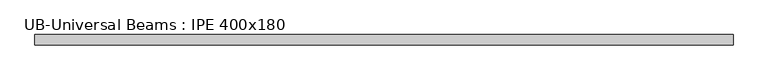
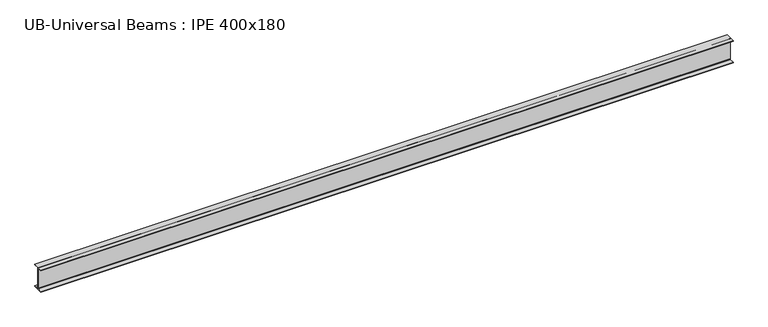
"""IFC4 building model written with IfcOpenShell, lengths in millimetres: beam geometry, UB-Universal Beams : IPE 400x180."""

from ifc_helpers import new_model, si_unit, point, frame, frame_2d, origin, place, context, project, spatial, polyline, circle_curve, trimmed, segment, composite_curve, outline, extrude, source, transform, mapped, element, save


def ub_universal_beams_ipe_400x180_9b888a99(model_context):
    return source(origin(), model_context, "Body", "SweptSolid", [
        extrude(outline(composite_curve([segment(polyline([(-90.0, -189.8), (-11.9, -189.8)]), True, "CONTINUOUS"), segment(trimmed(circle_curve(frame_2d((-11.9, -180.9)), 8.9), [point((-11.9, -189.8))], [point((-3.0, -180.9))], True, "CARTESIAN"), True, "CONTINUOUS"), segment(polyline([(-3.0, -180.9), (-3.0, 180.9)]), True, "CONTINUOUS"), segment(trimmed(circle_curve(frame_2d((-11.9, 180.9)), 8.9), [point((-3.0, 180.9))], [point((-11.9, 189.8))], True, "CARTESIAN"), True, "CONTINUOUS"), segment(polyline([(-11.9, 189.8), (-90.0, 189.8), (-90.0, 200.0), (90.0, 200.0), (90.0, 189.8), (11.9, 189.8)]), True, "CONTINUOUS"), segment(trimmed(circle_curve(frame_2d((11.9, 180.9)), 8.9), [point((11.9, 189.8))], [point((3.0, 180.9))], True, "CARTESIAN"), True, "CONTINUOUS"), segment(polyline([(3.0, 180.9), (3.0, -180.9)]), True, "CONTINUOUS"), segment(trimmed(circle_curve(frame_2d((11.9, -180.9)), 8.9), [point((3.0, -180.9))], [point((11.9, -189.8))], True, "CARTESIAN"), True, "CONTINUOUS"), segment(polyline([(11.9, -189.8), (90.0, -189.8), (90.0, -200.0), (-90.0, -200.0), (-90.0, -189.8)]), True, "CONTINUOUS")], self_intersect=False)), frame((-5832.5, 0.0, 0.0), z_axis=(1.0, 0.0, 0.0), x_axis=(0.0, 1.0, 0.0)), (0.0, 0.0, 1.0), 11920.1),
    ])


if __name__ == "__main__":
    model = new_model("IFC4")
    model_context = context("Model", 3, world=origin())
    ifc_project = project(units=[si_unit("LENGTHUNIT", "METRE", prefix="MILLI")], contexts=[model_context])
    site = spatial("IfcSite", under=ifc_project)
    building = spatial("IfcBuilding", under=site)
    placement = place(None, origin())
    ub_universal_beams_ipe_400x180_shape = ub_universal_beams_ipe_400x180_9b888a99(model_context)
    element("IfcBeam", 1, ObjectType="UB-Universal Beams : IPE 400x180", at=placement, inside=building, context=model_context, shape_type="MappedRepresentation", body=[
        mapped(ub_universal_beams_ipe_400x180_shape, transform((0.0, 0.0, 0.0), x_axis=(1.0, 0.0, 0.0), y_axis=(0.0, 1.0, 0.0), z_axis=(0.0, 0.0, 1.0))),
    ])
    save(model, "model.ifc")
